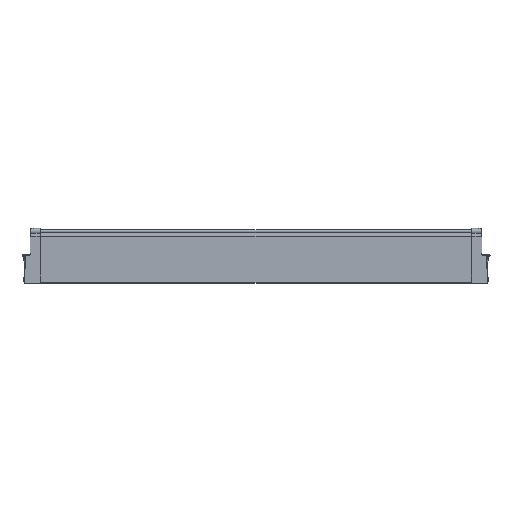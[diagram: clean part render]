
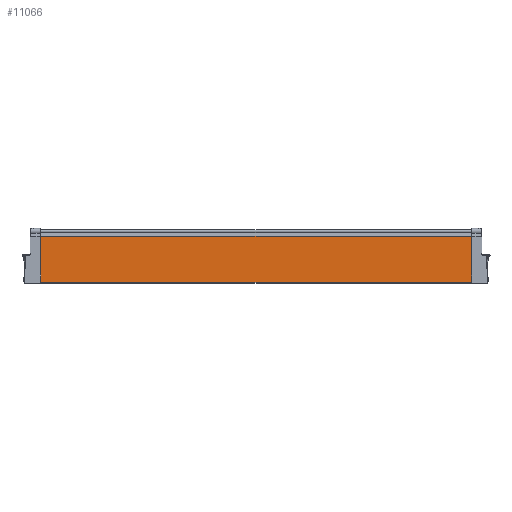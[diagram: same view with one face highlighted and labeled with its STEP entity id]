
A CAD part, top view. The second image highlights one B-rep face of the part: STEP entity #11066.
In plain terms, the highlighted planar face has unit normal (0, 0, 1).
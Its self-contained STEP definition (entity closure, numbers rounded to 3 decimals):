
#2 = VERTEX_POINT ( 'NONE', #9293 ) ;
#6730 = DIRECTION ( 'NONE',  ( -1., 0., 0. ) ) ;
#6731 = VECTOR ( 'NONE', #6730, 1000. ) ;
#6732 = CARTESIAN_POINT ( 'NONE',  ( 89.157, 45.248, 4.05 ) ) ;
#6733 = DIRECTION ( 'NONE',  ( 0., 1., 0. ) ) ;
#6734 = DIRECTION ( 'NONE',  ( 0., 0., -1. ) ) ;
#6735 = CARTESIAN_POINT ( 'NONE',  ( 89.157, 45.248, 4.05 ) ) ;
#6736 = LINE ( 'NONE', #6732, #6731 ) ;
#6737 = AXIS2_PLACEMENT_3D ( 'NONE', #6735, #6734, #6733 ) ;
#6738 = PLANE ( 'NONE',  #6737 ) ;
#6739 = FACE_OUTER_BOUND ( 'NONE', #11065, .T. ) ;
#6740 = DIRECTION ( 'NONE',  ( 0., -1., 0. ) ) ;
#6741 = VECTOR ( 'NONE', #6740, 1000. ) ;
#6742 = CARTESIAN_POINT ( 'NONE',  ( -1068.3, 45.248, 4.05 ) ) ;
#6743 = LINE ( 'NONE', #6742, #6741 ) ;
#6744 = CARTESIAN_POINT ( 'NONE',  ( -1068.3, -64.725, 4.05 ) ) ;
#6745 = DIRECTION ( 'NONE',  ( -1., 0., 0. ) ) ;
#6746 = VECTOR ( 'NONE', #6745, 1000. ) ;
#6747 = CARTESIAN_POINT ( 'NONE',  ( 89.157, -64.725, 4.05 ) ) ;
#6748 = LINE ( 'NONE', #6747, #6746 ) ;
#6912 = EDGE_CURVE ( 'NONE', #6918, #6914, #9574, .T. ) ;
#6914 = VERTEX_POINT ( 'NONE', #9569 ) ;
#6918 = VERTEX_POINT ( 'NONE', #9567 ) ;
#9293 = CARTESIAN_POINT ( 'NONE',  ( -1068.3, 45.248, 4.05 ) ) ;
#9567 = CARTESIAN_POINT ( 'NONE',  ( -38.8, 45.248, 4.05 ) ) ;
#9569 = CARTESIAN_POINT ( 'NONE',  ( -38.8, -64.725, 4.05 ) ) ;
#9571 = DIRECTION ( 'NONE',  ( 0., -1., 0. ) ) ;
#9572 = VECTOR ( 'NONE', #9571, 1000. ) ;
#9573 = CARTESIAN_POINT ( 'NONE',  ( -38.8, 45.248, 4.05 ) ) ;
#9574 = LINE ( 'NONE', #9573, #9572 ) ;
#11059 = EDGE_CURVE ( 'NONE', #6914, #11060, #6748, .T. ) ;
#11060 = VERTEX_POINT ( 'NONE', #6744 ) ;
#11061 = EDGE_CURVE ( 'NONE', #2, #11060, #6743, .T. ) ;
#11062 = ORIENTED_EDGE ( 'NONE', *, *, #11061, .T. ) ;
#11063 = ORIENTED_EDGE ( 'NONE', *, *, #11068, .T. ) ;
#11064 = ORIENTED_EDGE ( 'NONE', *, *, #6912, .F. ) ;
#11065 = EDGE_LOOP ( 'NONE', ( #11064, #11063, #11062, #11067 ) ) ;
#11066 = ADVANCED_FACE ( 'NONE', ( #6739 ), #6738, .F. ) ;
#11067 = ORIENTED_EDGE ( 'NONE', *, *, #11059, .F. ) ;
#11068 = EDGE_CURVE ( 'NONE', #6918, #2, #6736, .T. ) ;
